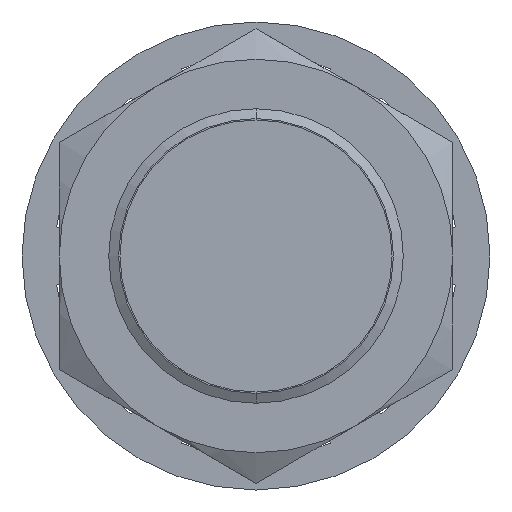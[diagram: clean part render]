
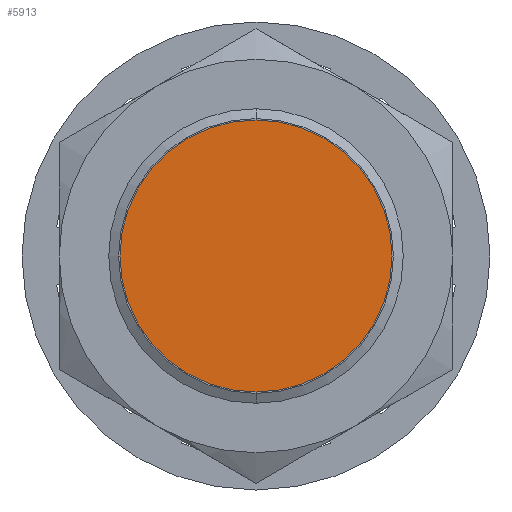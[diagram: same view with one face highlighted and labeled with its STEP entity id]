
A CAD part, left-side view. The second image highlights one B-rep face of the part: STEP entity #5913.
In plain terms, the highlighted planar face has unit normal (-1, 0, 0).
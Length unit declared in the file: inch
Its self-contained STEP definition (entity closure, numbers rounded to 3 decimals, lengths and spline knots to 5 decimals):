
#390 = FACE_OUTER_BOUND ( 'NONE', #5652, .T. ) ;
#391 = PLANE ( 'NONE',  #392 ) ;
#392 = AXIS2_PLACEMENT_3D ( 'NONE', #393, #394, #395 ) ;
#393 = CARTESIAN_POINT ( 'NONE',  ( 3.57, 4., 0. ) ) ;
#394 = DIRECTION ( 'NONE',  ( -1., 0., 0. ) ) ;
#395 = DIRECTION ( 'NONE',  ( 0., 0., 1. ) ) ;
#17228 = CIRCLE ( 'NONE', #17229, 0.327 ) ;
#17229 = AXIS2_PLACEMENT_3D ( 'NONE', #17230, #17236, #17237 ) ;
#17230 = CARTESIAN_POINT ( 'NONE',  ( 3.57, 4., 0. ) ) ;
#17236 = DIRECTION ( 'NONE',  ( 1., 0., 0. ) ) ;
#17237 = DIRECTION ( 'NONE',  ( 0., 0., 1. ) ) ;
#1422 = CARTESIAN_POINT ( 'NONE',  ( 3.57, 4., 0.327 ) ) ;
#1556 = CIRCLE ( 'NONE', #1557, 0.327 ) ;
#1557 = AXIS2_PLACEMENT_3D ( 'NONE', #1558, #1559, #1560 ) ;
#1558 = CARTESIAN_POINT ( 'NONE',  ( 3.57, 4., 0. ) ) ;
#1559 = DIRECTION ( 'NONE',  ( 1., 0., 0. ) ) ;
#1560 = DIRECTION ( 'NONE',  ( 0., 0., 1. ) ) ;
#3997 = ORIENTED_EDGE ( 'NONE', *, *, #7668, .F. ) ;
#4608 = EDGE_CURVE ( 'NONE', #7417, #15273, #17228, .T. ) ;
#5041 = ORIENTED_EDGE ( 'NONE', *, *, #4608, .F. ) ;
#5652 = EDGE_LOOP ( 'NONE', ( #5041, #3997 ) ) ;
#5913 = ADVANCED_FACE ( 'NONE', ( #390 ), #391, .T. ) ;
#7417 = VERTEX_POINT ( 'NONE', #1422 ) ;
#7668 = EDGE_CURVE ( 'NONE', #15273, #7417, #1556, .T. ) ;
#9339 = CARTESIAN_POINT ( 'NONE',  ( 3.57, 4., -0.327 ) ) ;
#15273 = VERTEX_POINT ( 'NONE', #9339 ) ;
